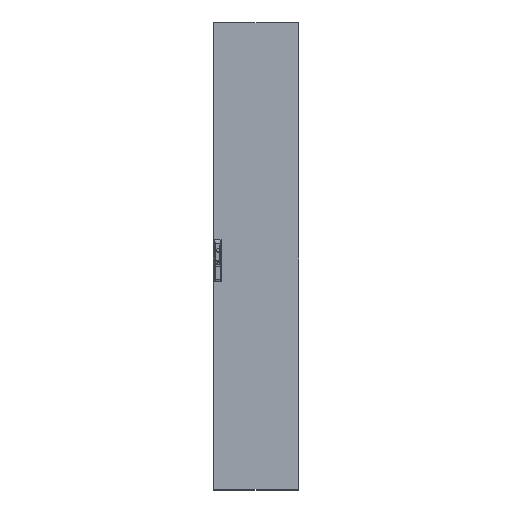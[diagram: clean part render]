
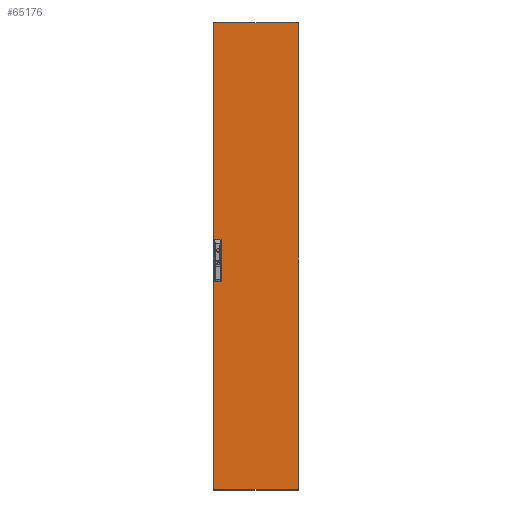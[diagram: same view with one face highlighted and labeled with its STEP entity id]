
A CAD part, top view. The second image highlights one B-rep face of the part: STEP entity #65176.
In plain terms, the highlighted planar face has unit normal (0, 0, 1).
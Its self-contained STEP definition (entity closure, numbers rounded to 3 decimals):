
#64796=CARTESIAN_POINT(' ',(194.4,1074.9,0.));
#64797=VERTEX_POINT(' ',#64796);
#64816=CARTESIAN_POINT(' ',(194.4,-1074.9,0.));
#64821=DIRECTION(' ',(0.,1.,0.));
#64826=VECTOR(' ',#64821,1.);
#64831=LINE('',#64816,#64826);
#64836=CARTESIAN_POINT(' ',(194.4,-1074.9,0.));
#64837=VERTEX_POINT(' ',#64836);
#64841=EDGE_CURVE(' ',#64837,#64797,#64831,.T.);
#65036=DIRECTION(' ',(0.,0.,1.));
#65041=CARTESIAN_POINT(' ',(194.4,-1074.9,0.));
#65046=DIRECTION(' ',(0.,1.,0.));
#65051=AXIS2_PLACEMENT_3D(' ',#65041,#65036,#65046);
#65056=PLANE('NONE',#65051);
#65061=CARTESIAN_POINT(' ',(-194.4,-1074.9,0.));
#65066=DIRECTION(' ',(1.,0.,0.));
#65071=VECTOR(' ',#65066,1.);
#65076=LINE('',#65061,#65071);
#65081=CARTESIAN_POINT(' ',(-194.4,-1074.9,0.));
#65082=VERTEX_POINT(' ',#65081);
#65086=EDGE_CURVE(' ',#65082,#64837,#65076,.T.);
#65091=ORIENTED_EDGE(' ',*,*,#65086,.T.);
#65096=ORIENTED_EDGE(' ',*,*,#64841,.T.);
#65101=CARTESIAN_POINT(' ',(194.4,1074.9,0.));
#65106=DIRECTION(' ',(-1.,0.,0.));
#65111=VECTOR(' ',#65106,1.);
#65116=LINE('',#65101,#65111);
#65121=CARTESIAN_POINT(' ',(-194.4,1074.9,0.));
#65122=VERTEX_POINT(' ',#65121);
#65126=EDGE_CURVE(' ',#64797,#65122,#65116,.T.);
#65131=ORIENTED_EDGE(' ',*,*,#65126,.T.);
#65136=CARTESIAN_POINT(' ',(-194.4,1074.9,0.));
#65141=DIRECTION(' ',(0.,-1.,0.));
#65146=VECTOR(' ',#65141,1.);
#65151=LINE('',#65136,#65146);
#65156=EDGE_CURVE(' ',#65122,#65082,#65151,.T.);
#65161=ORIENTED_EDGE(' ',*,*,#65156,.T.);
#65166=EDGE_LOOP(' ',(#65091,#65096,#65131,#65161));
#65171=FACE_OUTER_BOUND(' ',#65166,.T.);
#65176=ADVANCED_FACE('NONE',(#65171),#65056,.T.);
